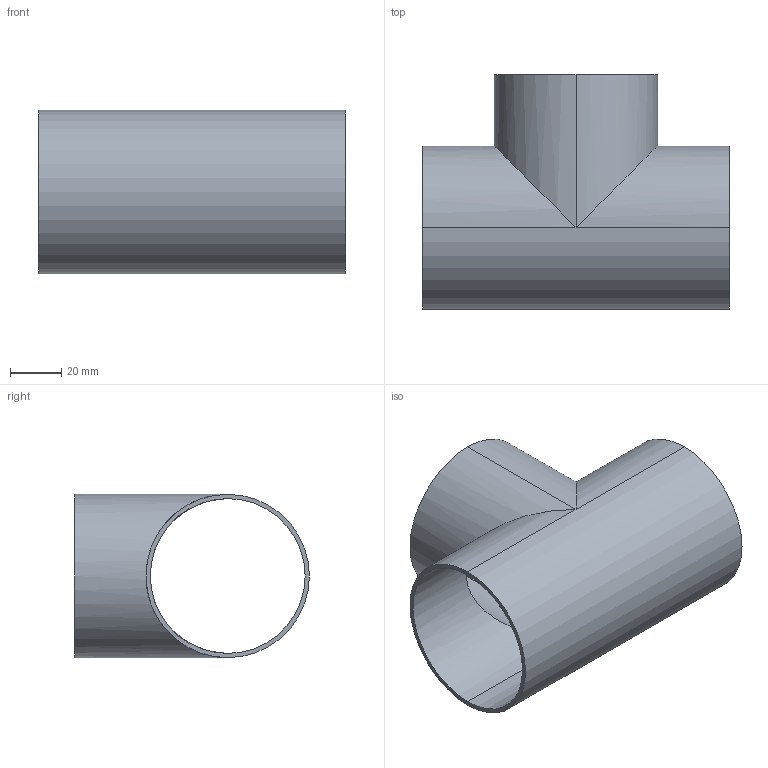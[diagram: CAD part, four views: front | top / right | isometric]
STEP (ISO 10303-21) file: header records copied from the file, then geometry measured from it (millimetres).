
FILE_DESCRIPTION (( 'STEP AP203' ), '1' );
FILE_NAME ('E7WWW2.5.STEP', '2018-05-02T17:58:39', ( 'vneprd' ), ( 'Microsoft' ), 'SwSTEP 2.0', 'SolidWorks 2014', '' );
FILE_SCHEMA (( 'CONFIG_CONTROL_DESIGN' ));
Length unit declared in the file: inch
Products named in the file (1): E7WWW2.5
Bounding box: 119.05 x 91.26 x 63.5 mm (x, y, z)
Volume: 44647.9 mm3; surface area: 55041 mm2
Topology: 1 solids, 1 shells, 13 faces, 28 edges, 16 vertices
Faces by surface type: cylinder 10, plane 3
Entity records: 437 total; most frequent: CARTESIAN_POINT 70, DIRECTION 64, ORIENTED_EDGE 56, EDGE_CURVE 28, AXIS2_PLACEMENT_3D 26, VERTEX_POINT 16, EDGE_LOOP 16, ADVANCED_FACE 13
